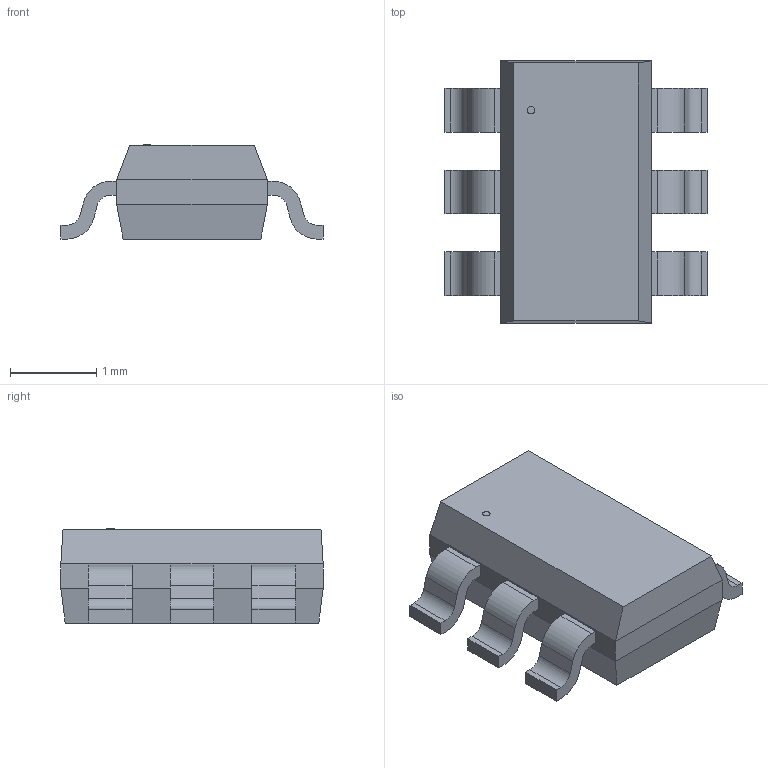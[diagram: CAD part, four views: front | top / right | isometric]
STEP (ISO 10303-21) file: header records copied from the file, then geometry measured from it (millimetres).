
FILE_DESCRIPTION(('STEP AP214'),'1');
FILE_NAME('SOT-23-THIN-6_DDC_TEX','2025-10-22T06:03:41',(''),(''),'','','');
FILE_SCHEMA(('AUTOMOTIVE_DESIGN'));
Length unit declared in the file: millimetre
Products named in the file (1): product
Bounding box: 3.05 x 3.05 x 1.09 mm (x, y, z)
Volume: 6 mm3; surface area: 28 mm2
Topology: 8 solids, 8 shells, 101 faces, 247 edges, 162 vertices
Faces by surface type: plane 76, cylinder 25
Full cylindrical faces by diameter (mm): 0.088 x1
Entity records: 2981 total; most frequent: DIRECTION 502, ORIENTED_EDGE 492, CARTESIAN_POINT 291, EDGE_CURVE 246, LINE 196, VECTOR 196, VERTEX_POINT 162, AXIS2_PLACEMENT_3D 153
